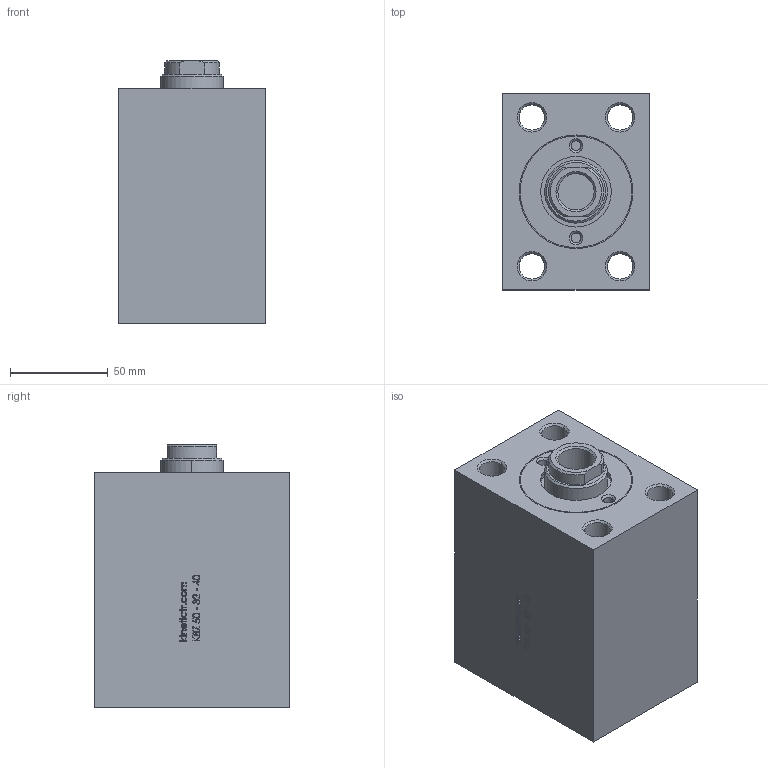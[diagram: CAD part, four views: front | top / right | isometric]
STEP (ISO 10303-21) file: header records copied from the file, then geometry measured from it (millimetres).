
FILE_DESCRIPTION (( 'STEP AP214' ), '1' );
FILE_NAME ('KBZ_02_50_32_55.STEP', '2018-12-29T16:00:33', ( '' ), ( '' ), 'SwSTEP 2.0', 'SolidWorks 2018', '' );
FILE_SCHEMA (( 'AUTOMOTIVE_DESIGN' ));
Length unit declared in the file: millimetre
Products named in the file (5): KBZ_02_50_32_55; KBZ_50-32_ON_KAPAK; 50-32-40-GOVDE; 32_M尳; KBZ_50_PÝSTON
Assembly tree (4 placements, depth 2):
  KBZ_02_50_32_55
    50-32-40-GOVDE
    32_M尳
    KBZ_50_PÝSTON
    KBZ_50-32_ON_KAPAK
Bounding box: 75 x 100 x 134 mm (x, y, z)
Volume: 746278.3 mm3; surface area: 131014.3 mm2
Topology: 4 solids, 4 shells, 481 faces, 1177 edges, 760 vertices
Faces by surface type: plane 211, bspline 124, cone 73, cylinder 73
Entity records: 21105 total; most frequent: CARTESIAN_POINT 10069, ORIENTED_EDGE 2354, DIRECTION 1864, EDGE_CURVE 1177, VERTEX_POINT 760, LINE 706, VECTOR 706, AXIS2_PLACEMENT_3D 579
